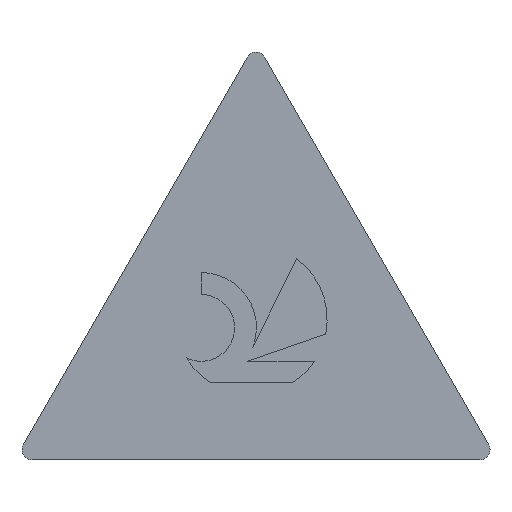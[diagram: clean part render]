
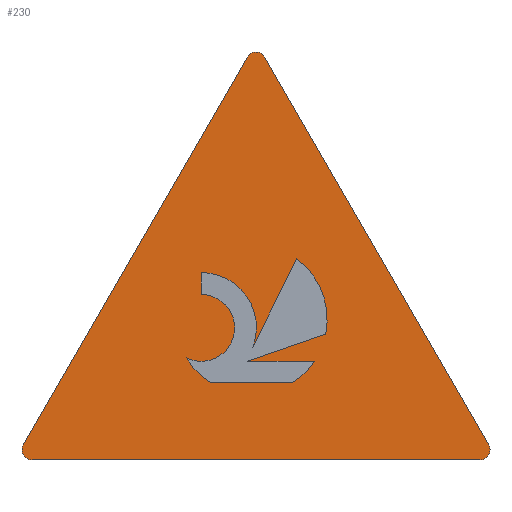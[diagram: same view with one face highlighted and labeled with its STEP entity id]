
A CAD part, top view. The second image highlights one B-rep face of the part: STEP entity #230.
In plain terms, the highlighted planar face has unit normal (0, 0, 1).
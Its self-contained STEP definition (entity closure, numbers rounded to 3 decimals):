
#144=VERTEX_POINT('',#384);
#146=EDGE_CURVE('',#200,#158,#386,.T.);
#152=VERTEX_POINT('',#392);
#154=VERTEX_POINT('',#394);
#156=VERTEX_POINT('',#396);
#158=VERTEX_POINT('',#398);
#160=EDGE_CURVE('',#324,#200,#400,.T.);
#162=EDGE_CURVE('',#156,#338,#402,.T.);
#164=EDGE_CURVE('',#354,#144,#404,.T.);
#172=EDGE_CURVE('',#306,#310,#412,.T.);
#178=EDGE_CURVE('',#256,#284,#418,.T.);
#188=VERTEX_POINT('',#430);
#200=VERTEX_POINT('',#444);
#206=EDGE_CURVE('',#232,#152,#451,.T.);
#220=EDGE_CURVE('',#188,#232,#466,.T.);
#222=EDGE_CURVE('',#152,#154,#468,.T.);
#230=ADVANCED_FACE('',(#477,#478),#479,.T.);
#232=VERTEX_POINT('',#481);
#234=EDGE_CURVE('',#350,#256,#483,.T.);
#242=EDGE_CURVE('',#284,#306,#491,.T.);
#254=EDGE_CURVE('',#266,#350,#506,.T.);
#256=VERTEX_POINT('',#508);
#262=EDGE_CURVE('',#158,#156,#514,.T.);
#266=VERTEX_POINT('',#519);
#278=EDGE_CURVE('',#338,#188,#532,.T.);
#284=VERTEX_POINT('',#540);
#306=VERTEX_POINT('',#566);
#308=EDGE_CURVE('',#144,#324,#568,.T.);
#310=VERTEX_POINT('',#570);
#324=VERTEX_POINT('',#586);
#332=EDGE_CURVE('',#154,#354,#594,.T.);
#336=EDGE_CURVE('',#310,#266,#599,.T.);
#338=VERTEX_POINT('',#601);
#350=VERTEX_POINT('',#614);
#354=VERTEX_POINT('',#618);
#384=CARTESIAN_POINT('',(3.716,3.736,0.0));
#386=CIRCLE('',#643,1.508);
#392=CARTESIAN_POINT('',(3.423,2.038,0.0));
#394=CARTESIAN_POINT('',(4.018,3.228,0.0));
#396=CARTESIAN_POINT('',(4.645,1.969,0.0));
#398=CARTESIAN_POINT('',(6.2,2.509,0.0));
#400=LINE('',#661,#662);
#402=LINE('',#665,#666);
#404=LINE('',#669,#670);
#412=CIRCLE('',#685,0.2);
#418=CIRCLE('',#696,0.2);
#430=CARTESIAN_POINT('',(5.543,1.54,0.0));
#444=CARTESIAN_POINT('',(5.619,4.016,0.0));
#451=CIRCLE('',#735,1.508);
#466=LINE('',#759,#760);
#468=CIRCLE('',#763,0.666);
#477=FACE_BOUND('',#773,.T.);
#478=FACE_OUTER_BOUND('',#774,.T.);
#479=PLANE('',#775);
#481=CARTESIAN_POINT('',(3.9,1.54,0.0));
#483=LINE('',#780,#781);
#491=LINE('',#794,#795);
#506=CIRCLE('',#814,0.2);
#508=CARTESIAN_POINT('',(4.985,8.034,0.0));
#514=LINE('',#825,#826);
#519=CARTESIAN_POINT('',(9.277,0.0,0.0));
#532=CIRCLE('',#848,1.508);
#540=CARTESIAN_POINT('',(4.638,8.034,0.0));
#566=CARTESIAN_POINT('',(0.173,0.3,0.0));
#568=CIRCLE('',#893,1.096);
#570=CARTESIAN_POINT('',(0.346,0.0,0.0));
#586=CARTESIAN_POINT('',(4.747,2.247,0.0));
#594=CIRCLE('',#927,0.666);
#599=LINE('',#933,#934);
#601=CARTESIAN_POINT('',(5.977,1.969,0.0));
#614=CARTESIAN_POINT('',(9.45,0.3,0.0));
#618=CARTESIAN_POINT('',(3.716,3.299,0.0));
#643=AXIS2_PLACEMENT_3D('',#971,#972,#973);
#661=CARTESIAN_POINT('',(5.295,3.358,0.0));
#662=VECTOR('',#978,1.0);
#665=CARTESIAN_POINT('',(5.394,1.969,0.0));
#666=VECTOR('',#979,1.0);
#669=CARTESIAN_POINT('',(3.716,3.257,0.0));
#670=VECTOR('',#980,1.0);
#685=AXIS2_PLACEMENT_3D('',#984,#985,#986);
#696=AXIS2_PLACEMENT_3D('',#989,#990,#991);
#735=AXIS2_PLACEMENT_3D('',#1036,#1037,#1038);
#759=CARTESIAN_POINT('',(4.356,1.54,0.0));
#760=VECTOR('',#1050,1.0);
#763=AXIS2_PLACEMENT_3D('',#1051,#1052,#1053);
#773=EDGE_LOOP('',(#1066,#1067,#1068,#1069,#1070,#1071,#1072,#1073,#1074,#1075,#1076));
#774=EDGE_LOOP('',(#1077,#1078,#1079,#1080,#1081,#1082));
#775=AXIS2_PLACEMENT_3D('',#1083,#1084,#1085);
#780=CARTESIAN_POINT('',(9.45,0.3,0.0));
#781=VECTOR('',#1086,1.0);
#794=CARTESIAN_POINT('',(4.638,8.034,0.0));
#795=VECTOR('',#1089,1.0);
#814=AXIS2_PLACEMENT_3D('',#1117,#1118,#1119);
#825=CARTESIAN_POINT('',(4.845,2.038,0.0));
#826=VECTOR('',#1121,1.0);
#848=AXIS2_PLACEMENT_3D('',#1141,#1142,#1143);
#893=AXIS2_PLACEMENT_3D('',#1203,#1204,#1205);
#927=AXIS2_PLACEMENT_3D('',#1227,#1228,#1229);
#933=CARTESIAN_POINT('',(0.346,0.0,0.0));
#934=VECTOR('',#1238,1.0);
#971=CARTESIAN_POINT('',(4.721,2.804,0.0));
#972=DIRECTION('',(0.0,-0.0,-1.0));
#973=DIRECTION('',(0.981,-0.196,0.0));
#978=DIRECTION('',(0.442,0.897,-0.0));
#979=DIRECTION('',(1.0,0.0,0.0));
#980=DIRECTION('',(0.0,1.0,0.0));
#984=CARTESIAN_POINT('',(0.346,0.2,0.0));
#985=DIRECTION('',(0.0,0.0,1.0));
#986=DIRECTION('',(-0.866,0.5,0.0));
#989=CARTESIAN_POINT('',(4.812,7.934,0.0));
#990=DIRECTION('',(0.0,-0.0,1.0));
#991=DIRECTION('',(0.866,0.5,0.0));
#1036=CARTESIAN_POINT('',(4.721,2.804,0.0));
#1037=DIRECTION('',(-0.0,0.0,-1.0));
#1038=DIRECTION('',(-0.861,-0.508,0.0));
#1050=DIRECTION('',(-1.0,0.0,0.0));
#1051=CARTESIAN_POINT('',(3.72,2.633,0.0));
#1052=DIRECTION('',(0.0,0.0,1.0));
#1053=DIRECTION('',(-0.447,-0.894,0.0));
#1066=ORIENTED_EDGE('',*,*,#164,.T.);
#1067=ORIENTED_EDGE('',*,*,#308,.T.);
#1068=ORIENTED_EDGE('',*,*,#160,.T.);
#1069=ORIENTED_EDGE('',*,*,#146,.T.);
#1070=ORIENTED_EDGE('',*,*,#262,.T.);
#1071=ORIENTED_EDGE('',*,*,#162,.T.);
#1072=ORIENTED_EDGE('',*,*,#278,.T.);
#1073=ORIENTED_EDGE('',*,*,#220,.T.);
#1074=ORIENTED_EDGE('',*,*,#206,.T.);
#1075=ORIENTED_EDGE('',*,*,#222,.T.);
#1076=ORIENTED_EDGE('',*,*,#332,.T.);
#1077=ORIENTED_EDGE('',*,*,#336,.T.);
#1078=ORIENTED_EDGE('',*,*,#254,.T.);
#1079=ORIENTED_EDGE('',*,*,#234,.T.);
#1080=ORIENTED_EDGE('',*,*,#178,.T.);
#1081=ORIENTED_EDGE('',*,*,#242,.T.);
#1082=ORIENTED_EDGE('',*,*,#172,.T.);
#1083=CARTESIAN_POINT('',(4.812,2.778,0.0));
#1084=DIRECTION('',(0.0,0.0,1.0));
#1085=DIRECTION('',(1.0,0.0,0.0));
#1086=DIRECTION('',(-0.5,0.866,0.0));
#1089=DIRECTION('',(-0.5,-0.866,0.0));
#1117=CARTESIAN_POINT('',(9.277,0.2,0.0));
#1118=DIRECTION('',(0.0,0.0,1.0));
#1119=DIRECTION('',(0.,-1.0,0.0));
#1121=DIRECTION('',(-0.945,-0.328,0.0));
#1141=CARTESIAN_POINT('',(4.721,2.804,0.0));
#1142=DIRECTION('',(0.0,-0.0,-1.0));
#1143=DIRECTION('',(0.545,-0.838,0.0));
#1203=CARTESIAN_POINT('',(3.725,2.641,0.0));
#1204=DIRECTION('',(0.0,-0.0,-1.0));
#1205=DIRECTION('',(0.933,-0.359,0.0));
#1227=CARTESIAN_POINT('',(3.72,2.633,0.0));
#1228=DIRECTION('',(0.0,0.0,1.0));
#1229=DIRECTION('',(-0.447,-0.894,0.0));
#1238=DIRECTION('',(1.0,0.0,0.0));
